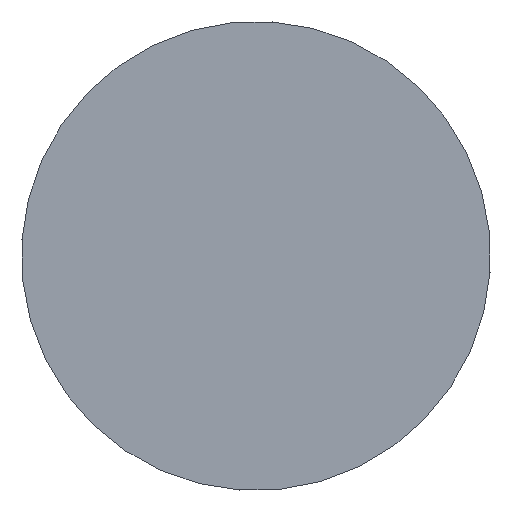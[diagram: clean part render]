
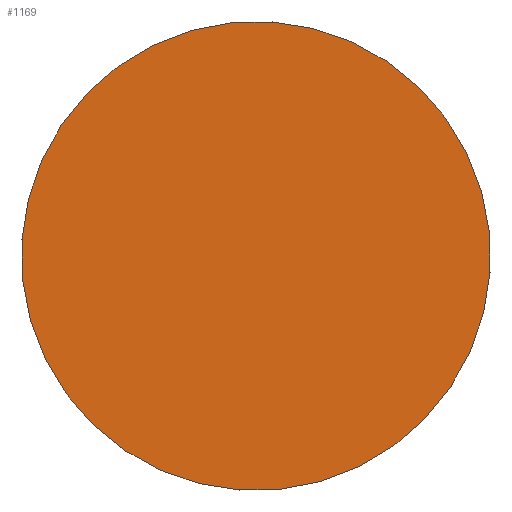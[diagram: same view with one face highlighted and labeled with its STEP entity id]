
A CAD part, left-side view. The second image highlights one B-rep face of the part: STEP entity #1169.
In plain terms, the highlighted planar face has unit normal (-1, 0, 0).
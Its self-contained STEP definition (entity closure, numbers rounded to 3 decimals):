
#1146=CARTESIAN_POINT('',(-49.456,-4.835,44.351));
#1147=VERTEX_POINT('',#1146);
#1148=CARTESIAN_POINT('',(-49.456,25.085,0.));
#1149=DIRECTION('',(-1.0,0.,0.));
#1150=DIRECTION('',(0.,-0.559,0.829));
#1151=AXIS2_PLACEMENT_3D('',#1148,#1149,#1150);
#1152=CIRCLE('',#1151,53.5);
#1153=EDGE_CURVE('',#1147,#1147,#1152,.T.);
#1161=CARTESIAN_POINT('',(-49.456,-1.06,38.755));
#1162=DIRECTION('',(-1.0,0.0,0.0));
#1163=DIRECTION('',(0.0,0.829,0.559));
#1164=AXIS2_PLACEMENT_3D('',#1161,#1162,#1163);
#1165=PLANE('',#1164);
#1166=ORIENTED_EDGE('',*,*,#1153,.T.);
#1167=EDGE_LOOP('',(#1166));
#1168=FACE_OUTER_BOUND('',#1167,.T.);
#1169=ADVANCED_FACE('',(#1168),#1165,.T.);
